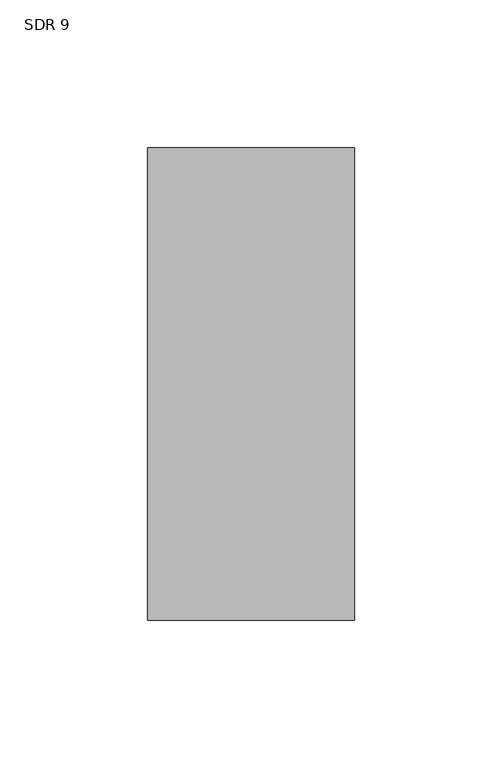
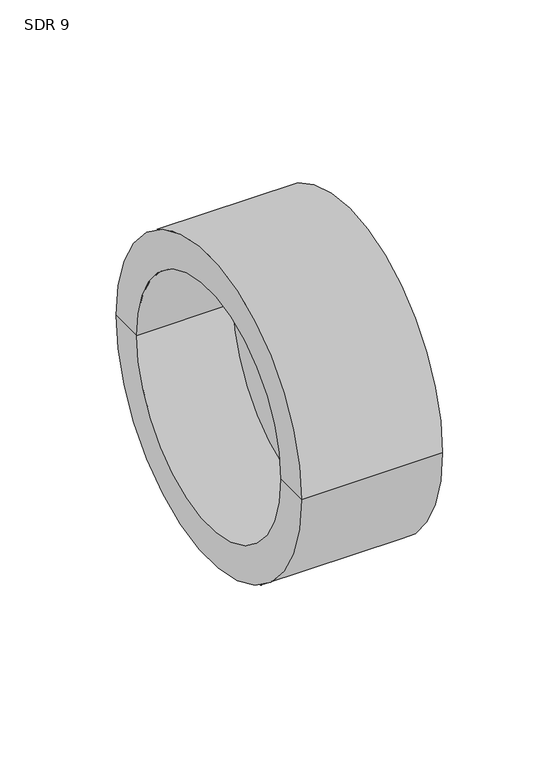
"""IFC4 building model written with IfcOpenShell, lengths in millimetres: pipe fitting geometry, Aquatherm - End Cap Butt-Weld : SDR 9."""

from ifc_helpers import new_model, si_unit, frame, origin, place, context, project, spatial, polyline, circle_curve, source, transform, mapped, element, save
from ifc_brep_helpers import plane_surface, cylinder_surface, revolved_surface, advanced_brep


def sdr_9_0a2dd365(model_context):
    return source(origin(), model_context, "Body", "AdvancedBrep", [
        advanced_brep(
        [(70.104, -80.01, 0.0), (70.104, 80.01, 0.0), (70.104, 0.0, 0.0), (48.26, 0.0, 0.0), (48.26, 62.23, 0.0), (48.26, -62.23, 0.0), (0.0, 62.23, 0.0), (0.0, -62.23, 0.0), (0.0, 80.01, 0.0), (0.0, -80.01, 0.0)],
        [
            (0, 1, circle_curve(frame((70.104, 0.0, 0.0), z_axis=(1.0, 0.0, 0.0), x_axis=(0.0, 1.0, 0.0)), 80.01)),
            (1, 2),
            (2, 0),
            (1, 0, circle_curve(frame((70.104, 0.0, 0.0), z_axis=(1.0, 0.0, 0.0), x_axis=(0.0, 1.0, 0.0)), 80.01)),
            (3, 4),
            (4, 5, circle_curve(frame((48.26, 0.0, 0.0), z_axis=(-1.0, 0.0, 0.0), x_axis=(0.0, 1.0, 0.0)), 62.23)),
            (5, 3),
            (5, 4, circle_curve(frame((48.26, 0.0, 0.0), z_axis=(-1.0, 0.0, 0.0), x_axis=(0.0, 1.0, 0.0)), 62.23)),
            (4, 6),
            (6, 7, circle_curve(frame((0.0, 0.0, 0.0), z_axis=(-1.0, 0.0, 0.0), x_axis=(0.0, 1.0, 0.0)), 62.23)),
            (7, 5),
            (7, 6, circle_curve(frame((0.0, 0.0, 0.0), z_axis=(-1.0, 0.0, 0.0), x_axis=(0.0, 1.0, 0.0)), 62.23)),
            (6, 8),
            (8, 9, circle_curve(frame((0.0, 0.0, 0.0), z_axis=(-1.0, 0.0, 0.0), x_axis=(0.0, 1.0, 0.0)), 80.01)),
            (9, 7),
            (9, 8, circle_curve(frame((0.0, 0.0, 0.0), z_axis=(-1.0, 0.0, 0.0), x_axis=(0.0, 1.0, 0.0)), 80.01)),
            (8, 1),
            (0, 9),
        ],
        [
            plane_surface(frame((70.104, 0.0, 0.0), z_axis=(1.0, 0.0, 0.0), x_axis=(0.0, 1.0, 0.0))),
            plane_surface(frame((48.26, 0.0, 0.0), z_axis=(-1.0, 0.0, 0.0), x_axis=(0.0, 1.0, 0.0))),
            revolved_surface(polyline([(0.0, 62.23, 0.0), (48.25999999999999, 62.23, 0.0)]), (-1373.886, 0.0, 0.0), (-1.0, 0.0, 0.0)),
            plane_surface(frame((0.0, 0.0, 0.0), z_axis=(-1.0, 0.0, 0.0), x_axis=(0.0, 1.0, 0.0))),
            cylinder_surface(frame((-1373.886, 0.0, 0.0), z_axis=(-1.0, 0.0, 0.0), x_axis=(0.0, 1.0, 0.0)), 80.01),
        ],
        [
            (0, [[1, 2, 3]]),
            (0, [[4, -3, -2]]),
            (1, [[5, 6, 7]]),
            (1, [[-7, 8, -5]]),
            (2, [[-6, 9, 10, 11]]),
            (2, [[-8, -11, 12, -9]]),
            (3, [[-10, 13, 14, 15]]),
            (3, [[-12, -15, 16, -13]]),
            (4, [[-14, 17, -1, 18]]),
            (4, [[-16, -18, -4, -17]]),
        ],
    ),
    ])


if __name__ == "__main__":
    model = new_model("IFC4")
    model_context = context("Model", 3, world=origin())
    ifc_project = project(units=[si_unit("LENGTHUNIT", "METRE", prefix="MILLI")], contexts=[model_context])
    site = spatial("IfcSite", under=ifc_project)
    building = spatial("IfcBuilding", under=site)
    placement = place(None, origin())
    sdr_9_shape = sdr_9_0a2dd365(model_context)
    element("IfcPipeFitting", 1, ObjectType="Aquatherm - End Cap Butt-Weld : SDR 9", at=placement, inside=building, context=model_context, shape_type="MappedRepresentation", body=[
        mapped(sdr_9_shape, transform((0.0, 0.0, 0.0), x_axis=(1.0, 0.0, 0.0), y_axis=(0.0, 1.0, 0.0), z_axis=(0.0, 0.0, 1.0))),
    ])
    save(model, "model.ifc")
